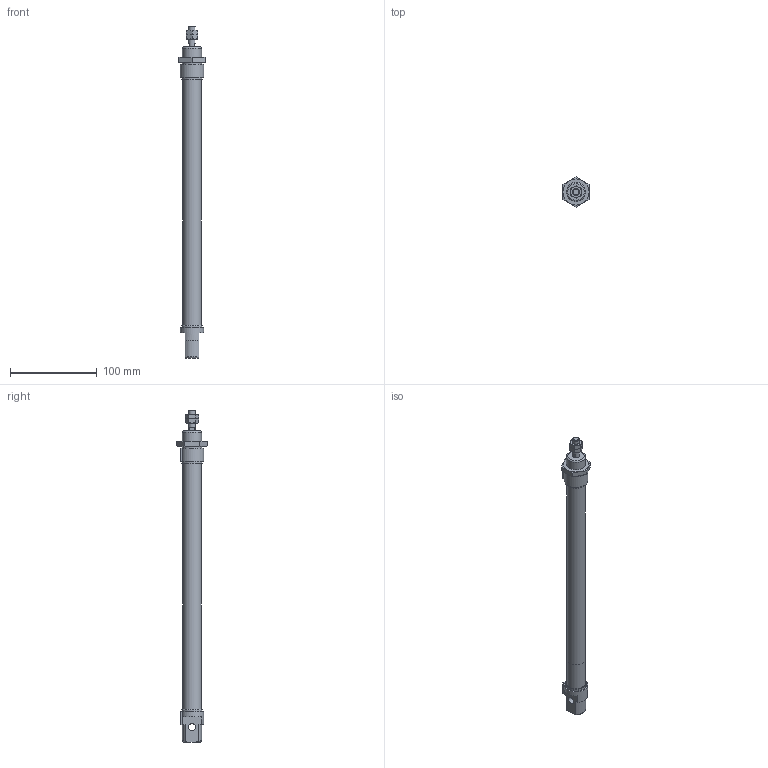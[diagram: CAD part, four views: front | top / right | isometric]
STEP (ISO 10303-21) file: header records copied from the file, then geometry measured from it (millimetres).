
FILE_DESCRIPTION( ( 'STEP AP214' ), '1' );
FILE_NAME( 'p:/temp/worker_17/temp/app_78_02018091616461686927796192d056f_000000_00_00_000000/format_0/MCMI-11-20-250(0_0).stp', '2018-09-16T14:46:17', ( '' ), ( '' ), ' ', 'PARTsolutions', ' ' );
FILE_SCHEMA( ( 'AUTOMOTIVE_DESIGN { 1 0 10303 214 1 1 1 1 }' ) );
Length unit declared in the file: millimetre
Products named in the file (5): MCMI-11-20-250(0_0); _MCMI-11-20-250-0_(0_b); _MCMI-11-20-250-0_(0_r); _MCMI-20_n; _MCMI-20_n2
Assembly tree (5 placements, depth 2):
  MCMI-11-20-250(0_0)
    _MCMI-11-20-250-0_(0_b)
    _MCMI-11-20-250-0_(0_r)
    _MCMI-20_n  x2
    _MCMI-20_n2
Bounding box: 30 x 34.64 x 382 mm (x, y, z)
Volume: 71224 mm3; surface area: 59647.3 mm2
Topology: 5 solids, 5 shells, 129 faces, 282 edges, 172 vertices
Faces by surface type: plane 54, cone 52, cylinder 20, torus 3
Full cylindrical faces by diameter (mm): 6.647 x2, 8 x3, 20 x2, 20.376 x1, 21.4 x1, 22 x1, 24 x2
Entity records: 3868 total; most frequent: CARTESIAN_POINT 751, DIRECTION 458, ORIENTED_EDGE 406, EDGE_CURVE 203, AXIS2_PLACEMENT_3D 199, EDGE_LOOP 148, VERTEX_POINT 140, FACE_OUTER_BOUND 118
